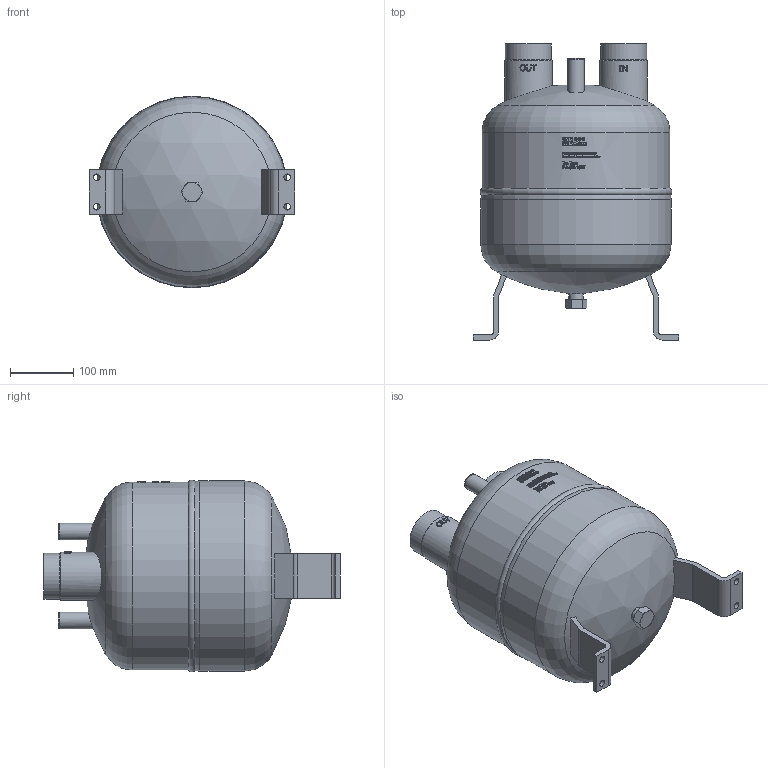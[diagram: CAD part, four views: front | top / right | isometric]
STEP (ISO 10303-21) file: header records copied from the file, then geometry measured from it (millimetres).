
FILE_DESCRIPTION(/* description */ (''),/* implementation_level */ '2;1');
FILE_NAME(/* name */ 'P:\FA\FA-67-18W\FA-67-18W.stp',/* time_stamp */ '2017-10-05T08:01:51+02:00',/* author */ ('neufeld'),/* organization */ (''),/* preprocessor_version */ 'ST-DEVELOPER v16.1',/* originating_system */ 'Autodesk Inventor 2016',/* authorisation */ '');
FILE_SCHEMA (('AUTOMOTIVE_DESIGN { 1 0 10303 214 3 1 1 }'));
Length unit declared in the file: millimetre
Products named in the file (1): FA-67-18W
Bounding box: 324 x 466.9 x 302.08 mm (x, y, z)
Volume: 20077039.2 mm3; surface area: 471929.8 mm2
Topology: 1 solids, 1 shells, 1345 faces, 3633 edges, 2415 vertices
Faces by surface type: plane 714, bspline 469, cylinder 139, cone 17, torus 4, sphere 2
Full cylindrical faces by diameter (mm): 10.5 x4, 20 x1, 22.4 x2, 22.5 x1, 23.6 x1, 25.4 x2, 26 x2, 67.3 x2, 72.5 x2, 75.4 x2, 296 x1, 300 x1
Entity records: 52317 total; most frequent: CARTESIAN_POINT 20976, ORIENTED_EDGE 7198, DIRECTION 5314, EDGE_CURVE 3599, VERTEX_POINT 2411, AXIS2_PLACEMENT_3D 1804, LINE 1706, VECTOR 1706
